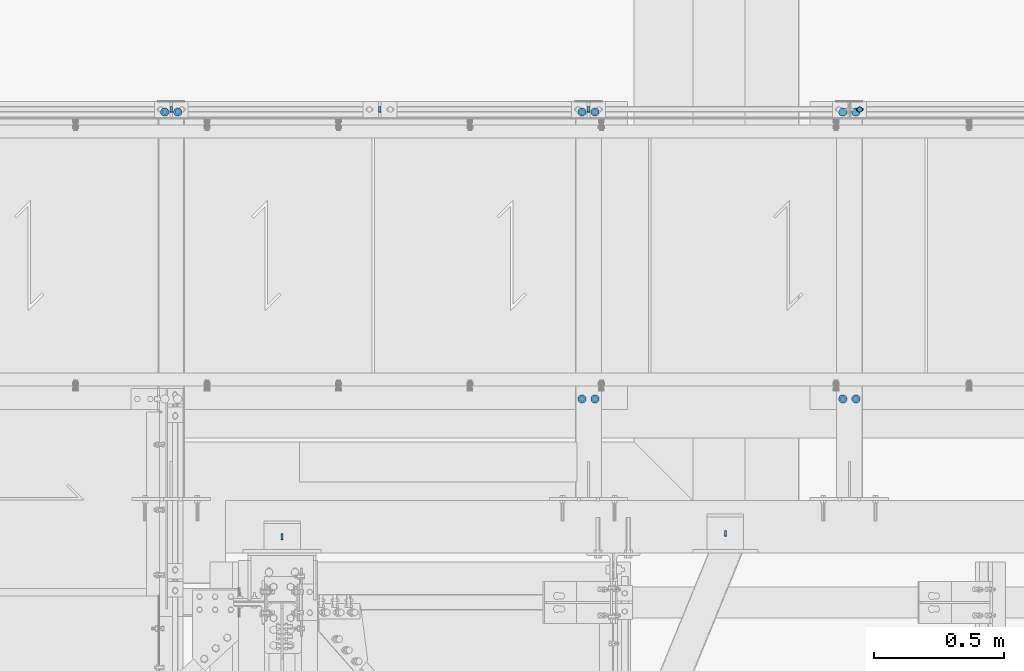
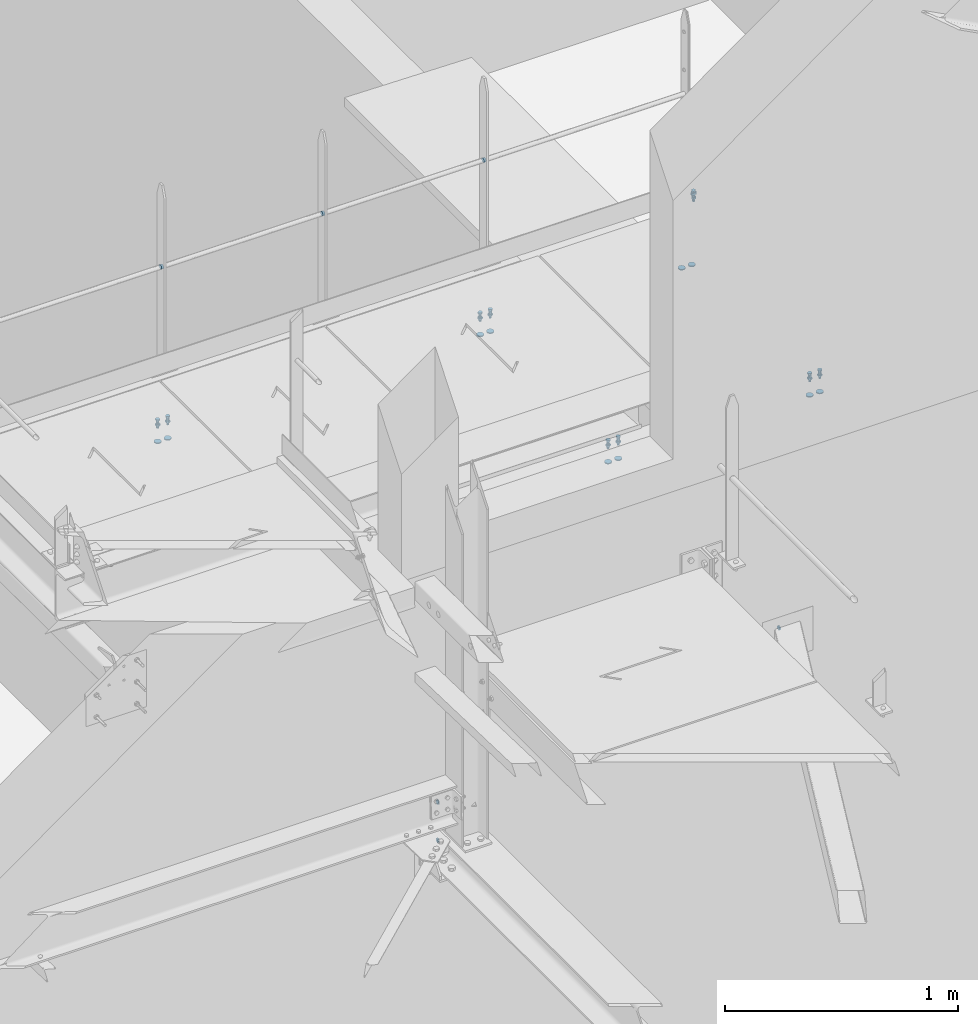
# One storey, part 299 of 362: 16 mechanical fasteners.
"""IFC2X3 building model written with IfcOpenShell, lengths in millimetres."""

import ifcopenshell
import ifcopenshell.guid

model = None  # the IFC model being written
_history = None  # IfcOwnerHistory: only IFC2X3 demands one
_inside = {}  # id of a spatial element -> (the spatial element, [elements in it])
_under = {}  # id of a project, library or spatial element -> (it, [spatial elements below it])
_declared = {}  # id of a project -> (the project, [libraries it declares])
_typed = {}  # id of a type object -> (the type object, [elements of that type])
_made_of = {}  # id of a material, layer set ... -> (it, [elements and type objects made of it])


def new_model(schema):
    """Start an empty IFC model of exactly this schema.

    Asked for "IFC4X3", IfcOpenShell would pick the latest addendum, in which some entities
    have other attributes; the version numbers below select the first issue.
    IFC2X3 requires an IfcOwnerHistory on every rooted entity: one is made here for all.
    """
    global model, _history
    if schema == "IFC4X3":
        model = ifcopenshell.file(schema_version=(4, 3, 0, 0))
    else:
        model = ifcopenshell.file(schema=schema)
    _inside.clear()
    _under.clear()
    _declared.clear()
    _typed.clear()
    _made_of.clear()
    _history = None
    if model.schema == "IFC2X3":
        org = make("IfcOrganization", Name="unknown")
        user = make(
            "IfcPersonAndOrganization",
            ThePerson=make("IfcPerson", FamilyName="unknown"),
            TheOrganization=org,
        )
        app = make(
            "IfcApplication",
            ApplicationDeveloper=org,
            Version="unknown",
            ApplicationFullName="unknown",
            ApplicationIdentifier="unknown",
        )
        _history = make(
            "IfcOwnerHistory",
            OwningUser=user,
            OwningApplication=app,
            ChangeAction="ADDED",
            CreationDate=0,
        )
    return model


def make(cls, **values):
    """One entity of the class cls with the attributes given. An attribute that is None is left unset."""
    return model.create_entity(
        cls, **{name: value for name, value in values.items() if value is not None}
    )


def rooted(cls, **values):
    """An entity with a GlobalId (a new one), such as an element, a storey or a relation."""
    return make(cls, GlobalId=ifcopenshell.guid.new(), OwnerHistory=_history, **values)


def si_unit(unit_type, name, prefix=None):
    """IfcSIUnit, for example si_unit("LENGTHUNIT", "METRE", prefix="MILLI")."""
    return make("IfcSIUnit", UnitType=unit_type, Prefix=prefix, Name=name)


def assignment(units):
    """IfcUnitAssignment: the units of a project."""
    return None if units is None else make("IfcUnitAssignment", Units=units)


def point(xyz):
    """IfcCartesianPoint."""
    return None if xyz is None else make("IfcCartesianPoint", Coordinates=xyz)


def direction(xyz):
    """IfcDirection."""
    return None if xyz is None else make("IfcDirection", DirectionRatios=xyz)


def frame(location, z_axis=None, x_axis=None):
    """IfcAxis2Placement3D, a coordinate frame: its origin and axes. An axis left out is left unset."""
    return make(
        "IfcAxis2Placement3D",
        Location=point(location),
        Axis=direction(z_axis),
        RefDirection=direction(x_axis),
    )


def frame_2d(location, x_axis=None):
    """IfcAxis2Placement2D, a coordinate frame in the plane: its origin and x axis."""
    return make(
        "IfcAxis2Placement2D", Location=point(location), RefDirection=direction(x_axis)
    )


def origin_with_axes():
    """The frame at (0, 0, 0) with the z axis (0, 0, 1) and the x axis (1, 0, 0) written out."""
    return frame((0.0, 0.0, 0.0), z_axis=(0.0, 0.0, 1.0), x_axis=(1.0, 0.0, 0.0))


def origin_2d_with_axis():
    """The frame at (0, 0) in the plane with the x axis (1, 0) written out."""
    return frame_2d((0.0, 0.0), x_axis=(1.0, 0.0))


def place(relative_to, where):
    """IfcLocalPlacement: puts the frame where relative to a parent placement (None: the world)."""
    return make(
        "IfcLocalPlacement", PlacementRelTo=relative_to, RelativePlacement=where
    )


def context(
    kind, dimensions, precision=None, world=None, true_north=None, identifier=None
):
    """IfcGeometricRepresentationContext, for example the 3D "Model" context."""
    return make(
        "IfcGeometricRepresentationContext",
        ContextIdentifier=identifier,
        ContextType=kind,
        CoordinateSpaceDimension=dimensions,
        Precision=precision,
        WorldCoordinateSystem=world,
        TrueNorth=true_north,
    )


def subcontext(parent, identifier, kind, view, scale=None):
    """IfcGeometricRepresentationSubContext, for example "Body" below "Model"."""
    return make(
        "IfcGeometricRepresentationSubContext",
        ContextIdentifier=identifier,
        ContextType=kind,
        ParentContext=parent,
        TargetScale=scale,
        TargetView=view,
    )


def project(units=None, contexts=None):
    """IfcProject with its units and contexts."""
    return rooted(
        "IfcProject",
        Name="project",
        RepresentationContexts=contexts,
        UnitsInContext=assignment(units),
    )


def spatial(cls, under=None, at=None, **own):
    """A site, building, storey or space (cls), placed at a placement, below another one or the project."""
    s = rooted(cls, ObjectPlacement=at, **own)
    if under is not None:
        _under.setdefault(under.id(), (under, []))[1].append(s)
    return s


def polyline(points):
    """IfcPolyline through the points."""
    return make("IfcPolyline", Points=[point(p) for p in points])


def circle_curve(where, radius):
    """IfcCircle in the frame where."""
    return make("IfcCircle", Position=where, Radius=radius)


def parameter(value):
    """IfcParameterValue: where a trimmed curve begins or ends, as a parameter of its basis curve."""
    return model.create_entity("IfcParameterValue", value)


def trimmed(basis, trim1, trim2, sense, master):
    """IfcTrimmedCurve: the piece of a basis curve between two trims."""
    return make(
        "IfcTrimmedCurve",
        BasisCurve=basis,
        Trim1=trim1,
        Trim2=trim2,
        SenseAgreement=sense,
        MasterRepresentation=master,
    )


def segment(curve, same_sense, transition):
    """IfcCompositeCurveSegment."""
    return make(
        "IfcCompositeCurveSegment",
        Transition=transition,
        SameSense=same_sense,
        ParentCurve=curve,
    )


def composite_curve(segments, self_intersect=None):
    """IfcCompositeCurve: segments joined end to end."""
    return make("IfcCompositeCurve", Segments=segments, SelfIntersect=self_intersect)


def profile(cls, at=None, kind="AREA", **sizes):
    """A parametric profile (cls). Its sizes go by their IFC names, for example OverallWidth=200.0."""
    return make(cls, ProfileType=kind, Position=at, **sizes)


def circle(**sizes):
    """IfcCircleProfileDef."""
    return profile("IfcCircleProfileDef", **sizes)


def outline(outer, holes=None, kind="AREA"):
    """IfcArbitraryClosedProfileDef: a profile drawn as a closed curve; with holes, ...WithVoids."""
    if holes is None:
        return make("IfcArbitraryClosedProfileDef", ProfileType=kind, OuterCurve=outer)
    return make(
        "IfcArbitraryProfileDefWithVoids",
        ProfileType=kind,
        OuterCurve=outer,
        InnerCurves=holes,
    )


def extrude(swept, where, along, depth):
    """IfcExtrudedAreaSolid: the profile swept, set in the frame where, extruded along a direction by depth."""
    return make(
        "IfcExtrudedAreaSolid",
        SweptArea=swept,
        Position=where,
        ExtrudedDirection=direction(along),
        Depth=depth,
    )


def shape(context_of_items, identifier, shape_type, items):
    """IfcShapeRepresentation: the items that make up one representation, for example the "Body"."""
    return make(
        "IfcShapeRepresentation",
        ContextOfItems=context_of_items,
        RepresentationIdentifier=identifier,
        RepresentationType=shape_type,
        Items=items,
    )


def source(mapping_origin, context_of_items, identifier, shape_type, items):
    """IfcRepresentationMap: a shape defined once, which mapped items show again and again."""
    return make(
        "IfcRepresentationMap",
        MappingOrigin=mapping_origin,
        MappedRepresentation=shape(context_of_items, identifier, shape_type, items),
    )


def transform(
    local_origin,
    x_axis=None,
    y_axis=None,
    z_axis=None,
    scale=None,
    scale2=None,
    scale3=None,
    uniform=True,
):
    """IfcCartesianTransformationOperator3D, or its non-uniform kind. x_axis, y_axis, z_axis: its Axis1, 2, 3."""
    if uniform:
        return make(
            "IfcCartesianTransformationOperator3D",
            Axis1=direction(x_axis),
            Axis2=direction(y_axis),
            LocalOrigin=point(local_origin),
            Scale=scale,
            Axis3=direction(z_axis),
        )
    return make(
        "IfcCartesianTransformationOperator3DnonUniform",
        Axis1=direction(x_axis),
        Axis2=direction(y_axis),
        LocalOrigin=point(local_origin),
        Scale=scale,
        Axis3=direction(z_axis),
        Scale2=scale2,
        Scale3=scale3,
    )


def mapped(mapping_source, mapping_target):
    """IfcMappedItem: shows the shape of a source again, moved by a transform."""
    return make(
        "IfcMappedItem", MappingSource=mapping_source, MappingTarget=mapping_target
    )


def material(Name=None, Category=None):
    """IfcMaterial."""
    return make("IfcMaterial", Name=Name, Category=Category)


def made_of(thing, what):
    """Note that an element or type object is made of a material, layer set ...; save() writes the relation."""
    if what is not None:
        _made_of.setdefault(what.id(), (what, []))[1].append(thing)
    return thing


def type_object(cls, material=None, **own):
    """A type object (cls), such as IfcWallType, which elements share."""
    return made_of(rooted(cls, **own), material)


def element(
    cls,
    number,
    at=None,
    inside=None,
    cuts=None,
    type_object=None,
    material=None,
    context=None,
    identifier="Body",
    shape_type=None,
    held_by="IfcProductDefinitionShape",
    body=None,
    shapes=None,
    **own,
):
    """One element of the class cls, such as IfcWall. Its Tag is "e" and its number.

    at: its placement. inside: the storey or other place that contains it. cuts: it is an
    opening in that element (IfcRelVoidsElement). A single representation is given by context,
    identifier, shape_type and body (its items); several are given by shapes. held_by: the class
    of the entity that holds the representations. save() writes the other relations.
    """
    e = rooted(cls, Tag="e%d" % number, ObjectPlacement=at, **own)
    if body is not None:
        shapes = [shape(context, identifier, shape_type, body)]
    if shapes is not None:
        e.Representation = make(held_by, Representations=shapes)
    if inside is not None:
        _inside.setdefault(inside.id(), (inside, []))[1].append(e)
    if cuts is not None:
        rooted(
            "IfcRelVoidsElement", RelatingBuildingElement=cuts, RelatedOpeningElement=e
        )
    if type_object is not None:
        _typed.setdefault(type_object.id(), (type_object, []))[1].append(e)
    return made_of(e, material)


def aggregate(whole, parts):
    """IfcRelAggregates: a whole, such as a stair, and the parts it consists of."""
    return rooted("IfcRelAggregates", RelatingObject=whole, RelatedObjects=parts)


def save(model, path):
    """Write the relations noted so far, then the file.

    IfcRelAggregates (storeys below a building ...), IfcRelContainedInSpatialStructure (elements
    in a storey), IfcRelDefinesByType, IfcRelAssociatesMaterial and IfcRelDeclares: one each for
    every whole, place, type object, material and project.
    """
    for whole, parts in _under.values():
        aggregate(whole, parts)
    for where, things in _inside.values():
        rooted(
            "IfcRelContainedInSpatialStructure",
            RelatedElements=things,
            RelatingStructure=where,
        )
    for kind, things in _typed.values():
        rooted("IfcRelDefinesByType", RelatedObjects=things, RelatingType=kind)
    for what, things in _made_of.values():
        rooted("IfcRelAssociatesMaterial", RelatedObjects=things, RelatingMaterial=what)
    for by, libraries in _declared.values():
        rooted("IfcRelDeclares", RelatingContext=by, RelatedDefinitions=libraries)
    model.write(path)


model = new_model("IFC2X3")

# Units and contexts
model_context = context("Model", 3, precision=1e-05, world=origin_with_axes())
body_context = subcontext(model_context, "Body", "Model", "MODEL_VIEW")
ifc_project = project(units=[si_unit("LENGTHUNIT", "METRE", prefix="MILLI"), si_unit("AREAUNIT", "SQUARE_METRE"), si_unit("VOLUMEUNIT", "CUBIC_METRE"), si_unit("MASSUNIT", "GRAM", prefix="KILO"), si_unit("TIMEUNIT", "SECOND"), si_unit("PLANEANGLEUNIT", "RADIAN"), si_unit("SOLIDANGLEUNIT", "STERADIAN"), si_unit("THERMODYNAMICTEMPERATUREUNIT", "DEGREE_CELSIUS"), si_unit("LUMINOUSINTENSITYUNIT", "LUMEN")], contexts=[model_context])

# Site, building, storey
site_placement = place(None, origin_with_axes())
site = spatial("IfcSite", under=ifc_project, at=site_placement, Name="Undefined", CompositionType="ELEMENT")
building_placement = place(site_placement, origin_with_axes())
building = spatial("IfcBuilding", under=site, at=building_placement, Name="Undefined", CompositionType="ELEMENT")
storey_placement = place(building_placement, origin_with_axes())
storey = spatial("IfcBuildingStorey", under=building, at=storey_placement, Name="Undefined", CompositionType="ELEMENT", Elevation=0.0)

# Mechanical fasteners
ifc_material_1 = material(Name="6.8")
mechanical_fastener_type = type_object("IfcMechanicalFastenerType", Name="Bolt assembly")
shared_shape_1 = source(origin_with_axes(), body_context, "Body", "SweptSolid", [
    extrude(circle(Radius=11.0, at=origin_2d_with_axis()), frame((0.0, -5.00000000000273, 0.0), z_axis=(0.0, 1.0, 0.0), x_axis=(1.0, 0.0, 0.0)), (0.0, 0.0, 1.0), 10.1),
])
for number, where, z_axis, x_axis, name in (
    (1, (13054.9961849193, 17089.9938659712, 9243.80000001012), (0.0, 0.0, -1.0), (0.0, -1.0, 0.0), "Bolt assembly"),
    (2, (13854.9961849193, 17089.9938659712, 9243.80000001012), (0.0, 0.0, -1.0), (0.0, -1.0, 0.0), "Bolt assembly"),
    (3, (12254.9961849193, 17089.9938659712, 9243.80000001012), (0.0, 0.0, -1.0), (0.0, -1.0, 0.0), "Bolt assembly"),
):
    element("IfcMechanicalFastener", number, at=place(storey_placement, frame(where, z_axis=z_axis, x_axis=x_axis)), inside=storey, type_object=mechanical_fastener_type, material=ifc_material_1, Name=name, NominalDiameter=20.0, NominalLength=10.0, context=body_context, shape_type="MappedRepresentation", body=[
        mapped(shared_shape_1, transform((0.0, 0.0, 0.0))),
    ])
shared_shape_2 = source(origin_with_axes(), body_context, "Body", "SweptSolid", [
    extrude(circle(Radius=16.0, at=origin_2d_with_axis()), frame((0.0, 0.0, 0.0), z_axis=(0.0, 1.0, 0.0), x_axis=(1.0, 0.0, 0.0)), (0.0, 0.0, 1.0), 5.1),
])
for number, where, z_axis, x_axis, name in (
    (4, (14855.0007605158, 15979.9857255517, 8340.0), (1.0, 0.0, 0.0), (0.0, 1.0, 0.0), "Bolt assembly"),
    (5, (13855.0007605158, 15979.9857255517, 8340.0), (1.0, 0.0, 0.0), (0.0, 1.0, 0.0), "Bolt assembly"),
):
    element("IfcMechanicalFastener", number, at=place(storey_placement, frame(where, z_axis=z_axis, x_axis=x_axis)), inside=storey, type_object=mechanical_fastener_type, material=ifc_material_1, Name=name, NominalDiameter=30.0, NominalLength=5.0, context=body_context, shape_type="MappedRepresentation", body=[
        mapped(shared_shape_2, transform((0.0, 0.0, -25.0))),
        mapped(shared_shape_2, transform((0.0, 0.0, 25.0))),
    ])
shared_shape_3 = source(origin_with_axes(), body_context, "Body", "SweptSolid", [
    extrude(circle(Radius=16.0, at=origin_2d_with_axis()), frame((0.0, -5.00000000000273, 0.0), z_axis=(0.0, 1.0, 0.0), x_axis=(1.0, 0.0, 0.0)), (0.0, 0.0, 1.0), 5.1),
])
for number, where, z_axis, x_axis, name in (
    (6, (12255.0007605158, 17079.9935808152, 8340.0), (1.0, 0.0, 0.0), (0.0, -1.0, 0.0), "Bolt assembly"),
    (7, (14855.0007605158, 17079.9935808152, 8340.0), (1.0, 0.0, 0.0), (0.0, -1.0, 0.0), "Bolt assembly"),
    (8, (13855.0007605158, 17079.9935808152, 8340.0), (1.0, 0.0, 0.0), (0.0, -1.0, 0.0), "Bolt assembly"),
):
    element("IfcMechanicalFastener", number, at=place(storey_placement, frame(where, z_axis=z_axis, x_axis=x_axis)), inside=storey, type_object=mechanical_fastener_type, material=ifc_material_1, Name=name, NominalDiameter=30.0, NominalLength=5.0, context=body_context, shape_type="MappedRepresentation", body=[
        mapped(shared_shape_3, transform((0.0, 0.0, -25.0))),
        mapped(shared_shape_3, transform((0.0, 0.0, 25.0))),
    ])
ifc_material_2 = material(Name="8.8-SB-GALVA")
shared_shape_4 = source(origin_with_axes(), body_context, "Body", "SweptSolid", [
    extrude(circle(Radius=7.0, at=origin_2d_with_axis()), frame((0.0, -13.5003368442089, 0.0), z_axis=(0.0, 1.0, 0.0), x_axis=(1.0, 0.0, 0.0)), (0.0, 0.0, 1.0), 13.6),
    extrude(circle(Radius=7.0, at=origin_2d_with_axis()), frame((0.0, -0.100011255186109, 0.0), z_axis=(0.0, 1.0, 0.0), x_axis=(1.0, 0.0, 0.0)), (0.0, 0.0, 1.0), 5.1),
    extrude(outline(polyline([(10.39230484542, 0.0), (5.19615242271, 9.00000000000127), (-5.19615242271, 9.00000000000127), (-10.39230484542, 0.0), (-5.19615242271, -9.00000000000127), (5.19615242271, -9.00000000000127), (10.39230484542, 0.0)])), frame((0.0, -21.5203368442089, 0.0), z_axis=(0.0, 1.0, 0.0), x_axis=(1.0, 0.0, 0.0)), (0.0, 0.0, 1.0), 7.92),
    extrude(circle(Radius=6.0, at=origin_2d_with_axis()), frame((0.0, -13.6003368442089, 0.0), z_axis=(0.0, 1.0, 0.0), x_axis=(1.0, 0.0, 0.0)), (0.0, 0.0, 1.0), 40.0),
    extrude(outline(polyline([(11.5008173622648, 0.0), (5.7504086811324, 9.96000000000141), (-5.7504086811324, 9.96000000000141), (-11.5008173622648, 0.0), (-5.7504086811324, -9.96000000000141), (5.7504086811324, -9.96000000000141), (11.5008173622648, 0.0)])), frame((0.0, 5.0, 0.0), z_axis=(0.0, 1.0, 0.0), x_axis=(1.0, 0.0, 0.0)), (0.0, 0.0, 1.0), 7.92),
])
mechanical_fastener_1_placement = place(storey_placement, frame((12255.0007605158, 17079.9934272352, 8440.0), z_axis=(1.0, 0.0, 0.0), x_axis=(0.0, -1.0, 0.0)))
element("IfcMechanicalFastener", 9, at=mechanical_fastener_1_placement, inside=storey, type_object=mechanical_fastener_type, material=ifc_material_2, Name="Bolt assembly", NominalDiameter=12.0, NominalLength=40.0, context=body_context, shape_type="MappedRepresentation", body=[
    mapped(shared_shape_4, transform((0.0, 0.0, -25.0))),
    mapped(shared_shape_4, transform((0.0, 0.0, 25.0))),
])
shared_shape_5 = source(origin_with_axes(), body_context, "Body", "SweptSolid", [
    extrude(circle(Radius=7.0, at=origin_2d_with_axis()), frame((0.0, -0.100011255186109, 0.0), z_axis=(0.0, 1.0, 0.0), x_axis=(1.0, 0.0, 0.0)), (0.0, 0.0, 1.0), 12.9),
    extrude(outline(composite_curve([segment(polyline([(-7.0, 7.0), (7.0, 7.0)]), True, "CONTINUOUS"), segment(trimmed(circle_curve(frame_2d((7.0, 0.0), x_axis=(0.0, 1.0)), 7.0), [parameter(0.0)], [parameter(3.14159265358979)], False, "PARAMETER"), True, "CONTINUOUS"), segment(polyline([(7.0, -7.0), (-7.0, -7.0)]), True, "CONTINUOUS"), segment(trimmed(circle_curve(frame_2d((-7.0, 0.0), x_axis=(0.0, -1.0)), 7.0), [parameter(0.0)], [parameter(3.14159265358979)], False, "PARAMETER"), True, "DISCONTINUOUS")], self_intersect=False)), frame((0.0, -9.9, 0.0), z_axis=(0.0, 1.0, 0.0), x_axis=(1.0, 0.0, 0.0)), (0.0, 0.0, 1.0), 10.0),
    extrude(outline(polyline([(10.39230484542, 0.0), (5.19615242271, 9.00000000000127), (-5.19615242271, 9.00000000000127), (-10.39230484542, 0.0), (-5.19615242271, -9.00000000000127), (5.19615242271, -9.00000000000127), (10.39230484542, 0.0)])), frame((0.0, -21.88, 0.0), z_axis=(0.0, 1.0, 0.0), x_axis=(1.0, 0.0, 0.0)), (0.0, 0.0, 1.0), 7.92),
    extrude(circle(Radius=6.0, at=origin_2d_with_axis()), frame((0.0, -13.96, 0.0), z_axis=(0.0, 1.0, 0.0), x_axis=(1.0, 0.0, 0.0)), (0.0, 0.0, 1.0), 50.0),
    extrude(circle(Radius=10.8, at=origin_2d_with_axis()), frame((0.0, -13.96, 0.0), z_axis=(0.0, 1.0, 0.0), x_axis=(1.0, 0.0, 0.0)), (0.0, 0.0, 1.0), 3.96),
    extrude(outline(polyline([(11.5008173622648, 0.0), (5.7504086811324, 9.96000000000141), (-5.7504086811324, 9.96000000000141), (-11.5008173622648, 0.0), (-5.7504086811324, -9.96000000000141), (5.7504086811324, -9.96000000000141), (11.5008173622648, 0.0)])), frame((0.0, 12.7999834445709, 0.0), z_axis=(0.0, 1.0, 0.0), x_axis=(1.0, 0.0, 0.0)), (0.0, 0.0, 1.0), 7.92),
])
mechanical_fastener_2_placement = place(storey_placement, frame((14894.9899902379, 17089.9938659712, 8700.00000001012), z_axis=(0.0, -1.0, 0.0), x_axis=(-1.0, 0.0, 0.0)))
element("IfcMechanicalFastener", 10, at=mechanical_fastener_2_placement, inside=storey, type_object=mechanical_fastener_type, material=ifc_material_2, Name="Bolt assembly", NominalDiameter=12.0, NominalLength=50.0, context=body_context, shape_type="MappedRepresentation", body=[
    mapped(shared_shape_5, transform((0.0, 0.0, 0.0))),
])
shared_shape_6 = source(origin_with_axes(), body_context, "Body", "SweptSolid", [
    extrude(circle(Radius=7.0, at=origin_2d_with_axis()), frame((0.0, -13.5004649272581, 0.0), z_axis=(0.0, 1.0, 0.0), x_axis=(1.0, 0.0, 0.0)), (0.0, 0.0, 1.0), 13.6),
    extrude(circle(Radius=7.0, at=origin_2d_with_axis()), frame((0.0, -0.100011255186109, 0.0), z_axis=(0.0, 1.0, 0.0), x_axis=(1.0, 0.0, 0.0)), (0.0, 0.0, 1.0), 5.1),
    extrude(outline(polyline([(10.39230484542, 0.0), (5.19615242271, 9.00000000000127), (-5.19615242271, 9.00000000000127), (-10.39230484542, 0.0), (-5.19615242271, -9.00000000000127), (5.19615242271, -9.00000000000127), (10.39230484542, 0.0)])), frame((0.0, -21.5204649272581, 0.0), z_axis=(0.0, 1.0, 0.0), x_axis=(1.0, 0.0, 0.0)), (0.0, 0.0, 1.0), 7.92),
    extrude(circle(Radius=6.0, at=origin_2d_with_axis()), frame((0.0, -13.6004649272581, 0.0), z_axis=(0.0, 1.0, 0.0), x_axis=(1.0, 0.0, 0.0)), (0.0, 0.0, 1.0), 40.0),
    extrude(outline(polyline([(11.5008173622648, 0.0), (5.7504086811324, 9.96000000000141), (-5.7504086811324, 9.96000000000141), (-11.5008173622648, 0.0), (-5.7504086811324, -9.96000000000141), (5.7504086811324, -9.96000000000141), (11.5008173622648, 0.0)])), frame((0.0, 5.0, 0.0), z_axis=(0.0, 1.0, 0.0), x_axis=(1.0, 0.0, 0.0)), (0.0, 0.0, 1.0), 7.92),
])
mechanical_fastener_3_placement = place(storey_placement, frame((13855.0007602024, 15979.9998774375, 8440.0), z_axis=(-1.0, 0.0, 0.0), x_axis=(0.0, 1.0, 0.0)))
element("IfcMechanicalFastener", 11, at=mechanical_fastener_3_placement, inside=storey, type_object=mechanical_fastener_type, material=ifc_material_2, Name="Bolt assembly", NominalDiameter=12.0, NominalLength=40.0, context=body_context, shape_type="MappedRepresentation", body=[
    mapped(shared_shape_6, transform((0.0, 0.0, -25.0))),
    mapped(shared_shape_6, transform((0.0, 0.0, 25.0))),
])
shared_shape_7 = source(origin_with_axes(), body_context, "Body", "SweptSolid", [
    extrude(circle(Radius=7.0, at=origin_2d_with_axis()), frame((0.0, -13.5008181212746, 0.0), z_axis=(0.0, 1.0, 0.0), x_axis=(1.0, 0.0, 0.0)), (0.0, 0.0, 1.0), 13.6),
    extrude(circle(Radius=7.0, at=origin_2d_with_axis()), frame((0.0, -0.100011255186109, 0.0), z_axis=(0.0, 1.0, 0.0), x_axis=(1.0, 0.0, 0.0)), (0.0, 0.0, 1.0), 5.1),
    extrude(outline(polyline([(10.39230484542, 0.0), (5.19615242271, 9.00000000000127), (-5.19615242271, 9.00000000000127), (-10.39230484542, 0.0), (-5.19615242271, -9.00000000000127), (5.19615242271, -9.00000000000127), (10.39230484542, 0.0)])), frame((0.0, -21.5208181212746, 0.0), z_axis=(0.0, 1.0, 0.0), x_axis=(1.0, 0.0, 0.0)), (0.0, 0.0, 1.0), 7.92),
    extrude(circle(Radius=6.0, at=origin_2d_with_axis()), frame((0.0, -13.6008181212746, 0.0), z_axis=(0.0, 1.0, 0.0), x_axis=(1.0, 0.0, 0.0)), (0.0, 0.0, 1.0), 40.0),
    extrude(outline(polyline([(11.5008173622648, 0.0), (5.7504086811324, 9.96000000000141), (-5.7504086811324, 9.96000000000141), (-11.5008173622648, 0.0), (-5.7504086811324, -9.96000000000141), (5.7504086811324, -9.96000000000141), (11.5008173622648, 0.0)])), frame((0.0, 5.0, 0.0), z_axis=(0.0, 1.0, 0.0), x_axis=(1.0, 0.0, 0.0)), (0.0, 0.0, 1.0), 7.92),
])
mechanical_fastener_4_placement = place(storey_placement, frame((13855.0007605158, 17079.9934272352, 8440.0), z_axis=(1.0, 0.0, 0.0), x_axis=(0.0, -1.0, 0.0)))
element("IfcMechanicalFastener", 12, at=mechanical_fastener_4_placement, inside=storey, type_object=mechanical_fastener_type, material=ifc_material_2, Name="Bolt assembly", NominalDiameter=12.0, NominalLength=40.0, context=body_context, shape_type="MappedRepresentation", body=[
    mapped(shared_shape_7, transform((0.0, 0.0, -25.0))),
    mapped(shared_shape_7, transform((0.0, 0.0, 25.0))),
])
shared_shape_8 = source(origin_with_axes(), body_context, "Body", "SweptSolid", [
    extrude(circle(Radius=7.0, at=origin_2d_with_axis()), frame((0.0, -13.5000574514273, 0.0), z_axis=(0.0, 1.0, 0.0), x_axis=(1.0, 0.0, 0.0)), (0.0, 0.0, 1.0), 13.6),
    extrude(circle(Radius=7.0, at=origin_2d_with_axis()), frame((0.0, -0.100011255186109, 0.0), z_axis=(0.0, 1.0, 0.0), x_axis=(1.0, 0.0, 0.0)), (0.0, 0.0, 1.0), 5.1),
    extrude(outline(polyline([(10.39230484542, 0.0), (5.19615242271, 9.00000000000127), (-5.19615242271, 9.00000000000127), (-10.39230484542, 0.0), (-5.19615242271, -9.00000000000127), (5.19615242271, -9.00000000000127), (10.39230484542, 0.0)])), frame((0.0, -21.5200574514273, 0.0), z_axis=(0.0, 1.0, 0.0), x_axis=(1.0, 0.0, 0.0)), (0.0, 0.0, 1.0), 7.92),
    extrude(circle(Radius=6.0, at=origin_2d_with_axis()), frame((0.0, -13.6000574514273, 0.0), z_axis=(0.0, 1.0, 0.0), x_axis=(1.0, 0.0, 0.0)), (0.0, 0.0, 1.0), 40.0),
    extrude(outline(polyline([(11.5008173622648, 0.0), (5.7504086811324, 9.96000000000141), (-5.7504086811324, 9.96000000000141), (-11.5008173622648, 0.0), (-5.7504086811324, -9.96000000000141), (5.7504086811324, -9.96000000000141), (11.5008173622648, 0.0)])), frame((0.0, 5.0, 0.0), z_axis=(0.0, 1.0, 0.0), x_axis=(1.0, 0.0, 0.0)), (0.0, 0.0, 1.0), 7.92),
])
mechanical_fastener_5_placement = place(storey_placement, frame((14855.0007602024, 15979.9998774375, 8440.0), z_axis=(-1.0, 0.0, 0.0), x_axis=(0.0, 1.0, 0.0)))
element("IfcMechanicalFastener", 13, at=mechanical_fastener_5_placement, inside=storey, type_object=mechanical_fastener_type, material=ifc_material_2, Name="Bolt assembly", NominalDiameter=12.0, NominalLength=40.0, context=body_context, shape_type="MappedRepresentation", body=[
    mapped(shared_shape_8, transform((0.0, 0.0, -25.0))),
    mapped(shared_shape_8, transform((0.0, 0.0, 25.0))),
])
shared_shape_9 = source(origin_with_axes(), body_context, "Body", "SweptSolid", [
    extrude(circle(Radius=11.0, at=origin_2d_with_axis()), frame((0.0, -2.74999998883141, 0.0), z_axis=(0.0, 1.0, 0.0), x_axis=(1.0, 0.0, 0.0)), (0.0, 0.0, 1.0), 5.6),
])
for number, where, z_axis, x_axis, name in (
    (14, (14380.0000018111, 15464.4999998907, 7591.7), (0.0, 0.0, 1.0), (0.0, -1.0, 0.0), "Bolt assembly"),
    (15, (12680.0000000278, 15451.999999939, 7079.99830350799), (0.0, 0.0, 1.0), (0.0, -1.0, 0.0), "Bolt assembly"),
    (16, (12680.0000000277, 15451.9999999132, 7279.99830350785), (0.0, 0.0, 1.0), (0.0, -1.0, 0.0), "Bolt assembly"),
):
    element("IfcMechanicalFastener", number, at=place(storey_placement, frame(where, z_axis=z_axis, x_axis=x_axis)), inside=storey, type_object=mechanical_fastener_type, material=ifc_material_1, Name=name, NominalDiameter=20.0, NominalLength=5.5, context=body_context, shape_type="MappedRepresentation", body=[
        mapped(shared_shape_9, transform((0.0, 0.0, 0.0))),
    ])

save(model, "model.ifc")
